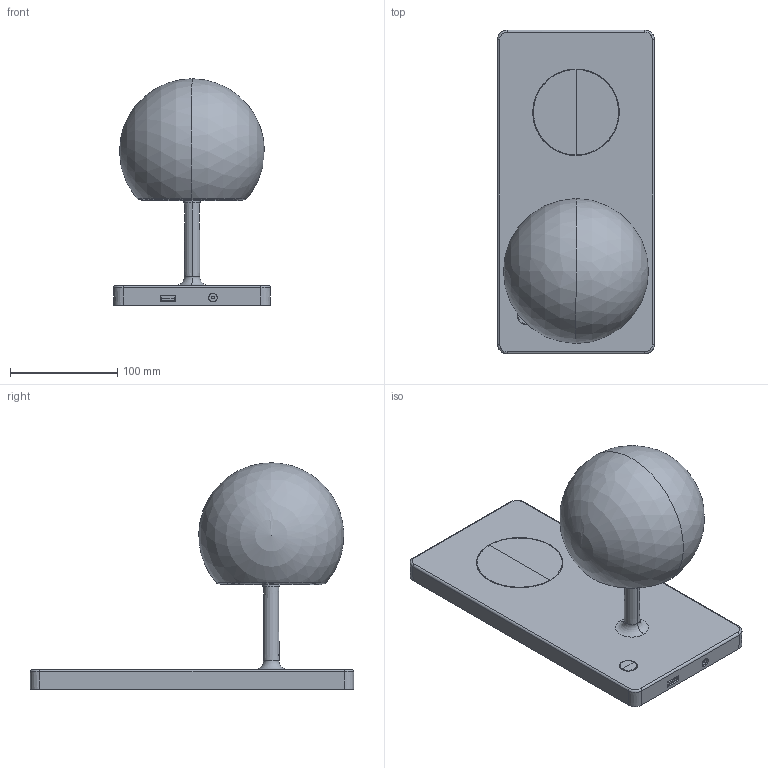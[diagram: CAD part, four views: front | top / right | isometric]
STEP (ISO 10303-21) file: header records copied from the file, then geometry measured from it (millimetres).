
FILE_DESCRIPTION(/* description */ (''),/* implementation_level */ '2;1');
FILE_NAME(/* name */ 'C:\Users\FrancoSartori\Documents\FARO\01_En Proceso\00_NIKO\03_Publicación\01007.stp',/* time_stamp */ '2021-10-06T12:42:17+02:00',/* author */ ('FrancoSartori'),/* organization */ (''),/* preprocessor_version */ 'ST-DEVELOPER v18.1',/* originating_system */ 'AutoCAD Mechanical',/* authorisation */ '');
FILE_SCHEMA (('AUTOMOTIVE_DESIGN { 1 0 10303 214 3 1 1 }'));
Length unit declared in the file: millimetre
Products named in the file (2): Product; 01007_ 01025_ - structure-606516-Export
Assembly tree (1 placements, depth 2):
  Product
    01007_ 01025_ - structure-606516-Export
Bounding box: 146.09 x 301.51 x 210.72 mm (x, y, z)
Volume: 420565 mm3; surface area: 334901.2 mm2
Topology: 11 solids, 20 shells, 177 faces, 479 edges, 332 vertices
Faces by surface type: plane 95, cylinder 50, cone 14, torus 12, sphere 6
Entity records: 6776 total; most frequent: CARTESIAN_POINT 2280, DIRECTION 892, ORIENTED_EDGE 846, EDGE_CURVE 475, VERTEX_POINT 332, AXIS2_PLACEMENT_3D 298, LINE 296, VECTOR 296
